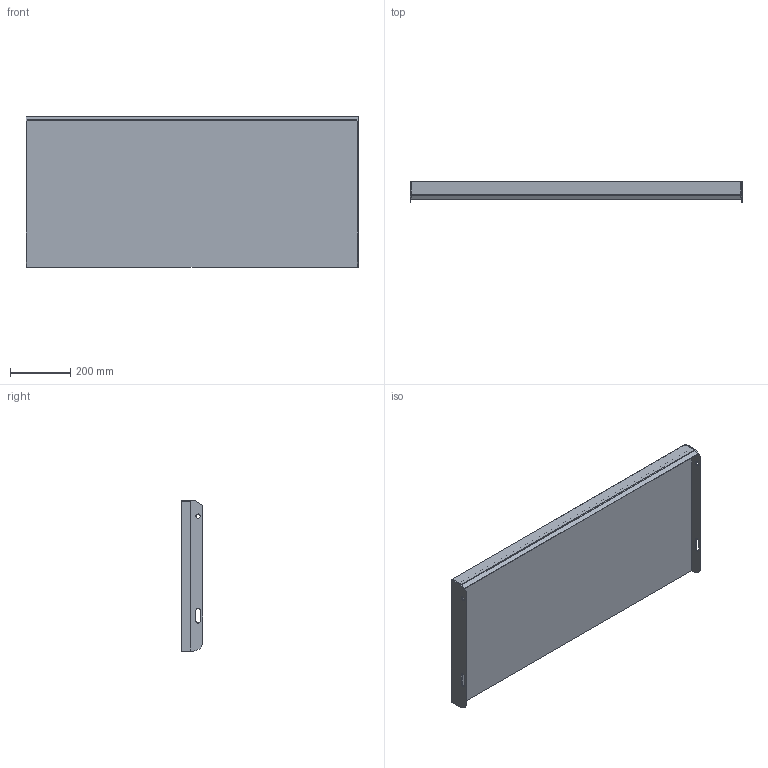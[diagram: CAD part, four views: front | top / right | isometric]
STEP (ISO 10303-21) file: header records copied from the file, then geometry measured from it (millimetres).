
FILE_DESCRIPTION (( 'STEP AP203' ), '1' );
FILE_NAME ('148811051, Plan TH6, 1100x500, vfz.STEP', '2020-10-21T13:13:27', ( '' ), ( '' ), 'SwSTEP 2.0', 'SolidWorks 2019', '' );
FILE_SCHEMA (( 'CONFIG_CONTROL_DESIGN' ));
Length unit declared in the file: millimetre
Products named in the file (4): SW0000041378; 148811051, Plan TH6, 1100x500, vfz; SW0000041788; SW0000041752
Assembly tree (4 placements, depth 2):
  148811051, Plan TH6, 1100x500, vfz
    SW0000041788
    SW0000041378  x2
    SW0000041752
Bounding box: 1100 x 70 x 497 mm (x, y, z)
Volume: 16611611.9 mm3; surface area: 1456514.5 mm2
Topology: 4 solids, 4 shells, 59 faces, 142 edges, 92 vertices
Faces by surface type: plane 45, cylinder 14
Entity records: 1693 total; most frequent: DIRECTION 221, CARTESIAN_POINT 220, ORIENTED_EDGE 206, EDGE_CURVE 103, LINE 87, VECTOR 87, AXIS2_PLACEMENT_3D 67, VERTEX_POINT 66
